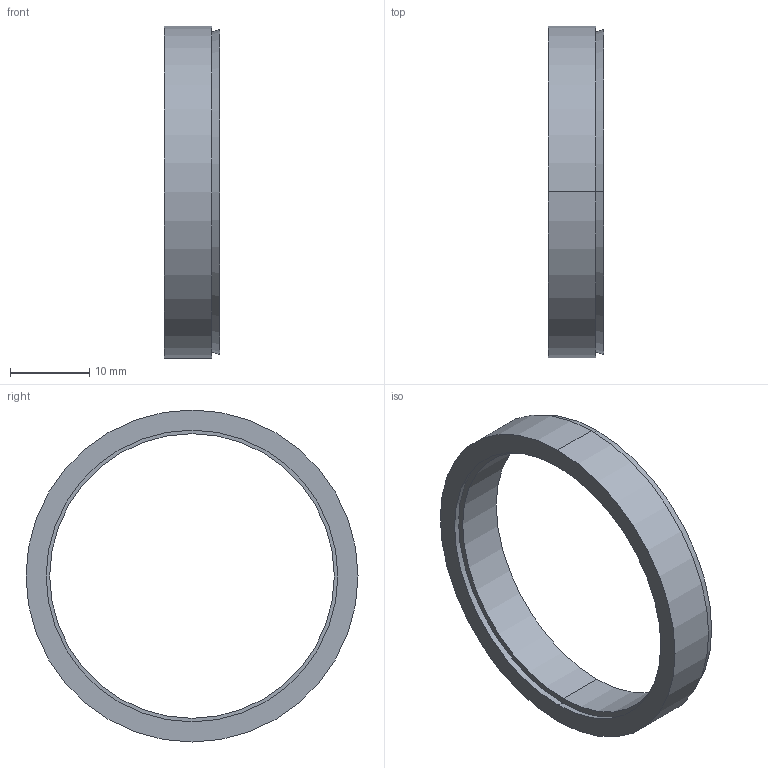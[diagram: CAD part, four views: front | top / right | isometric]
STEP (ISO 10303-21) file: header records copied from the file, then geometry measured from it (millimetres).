
FILE_DESCRIPTION (( 'STEP AP203' ), '1' );
FILE_NAME ('R-36-42.STEP', '2017-11-06T02:31:11', ( 'MYCOM' ), ( '' ), 'SwSTEP 2.0', 'SolidWorks 2015', '' );
FILE_SCHEMA (( 'CONFIG_CONTROL_DESIGN' ));
Length unit declared in the file: millimetre
Products named in the file (1): R-36-42
Bounding box: 7 x 42 x 42 mm (x, y, z)
Surface area: 3813.9 mm2 (no closed solid volume)
Topology: 0 solids, 2 shells, 12 faces, 24 edges, 16 vertices
Faces by surface type: cylinder 4, cone 4, plane 4
Entity records: 406 total; most frequent: DIRECTION 66, CARTESIAN_POINT 53, ORIENTED_EDGE 48, AXIS2_PLACEMENT_3D 29, EDGE_CURVE 24, VERTEX_POINT 16, EDGE_LOOP 16, CIRCLE 16
